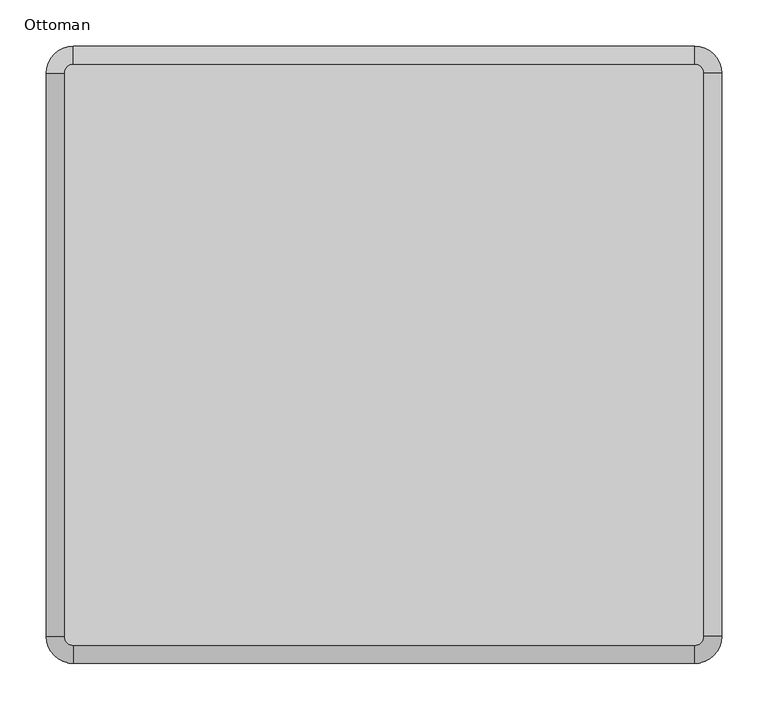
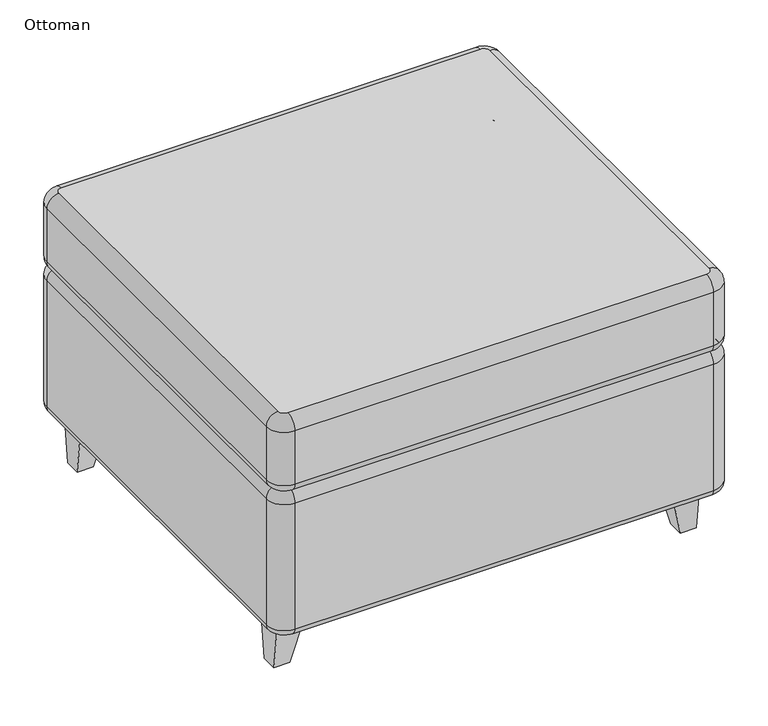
"""IFC4 building model written with IfcOpenShell, lengths in millimetres: furniture geometry, Coalesse_AM_Seating_Ottoman_Thoughtful : Ottoman."""

import ifcopenshell
import ifcopenshell.guid

model = None  # the IFC model being written
_history = None  # IfcOwnerHistory: only IFC2X3 demands one
_inside = {}  # id of a spatial element -> (the spatial element, [elements in it])
_under = {}  # id of a project, library or spatial element -> (it, [spatial elements below it])
_declared = {}  # id of a project -> (the project, [libraries it declares])
_typed = {}  # id of a type object -> (the type object, [elements of that type])
_made_of = {}  # id of a material, layer set ... -> (it, [elements and type objects made of it])


def new_model(schema):
    """Start an empty IFC model of exactly this schema.

    Asked for "IFC4X3", IfcOpenShell would pick the latest addendum, in which some entities
    have other attributes; the version numbers below select the first issue.
    IFC2X3 requires an IfcOwnerHistory on every rooted entity: one is made here for all.
    """
    global model, _history
    if schema == "IFC4X3":
        model = ifcopenshell.file(schema_version=(4, 3, 0, 0))
    else:
        model = ifcopenshell.file(schema=schema)
    _inside.clear()
    _under.clear()
    _declared.clear()
    _typed.clear()
    _made_of.clear()
    _history = None
    if model.schema == "IFC2X3":
        org = make("IfcOrganization", Name="unknown")
        user = make(
            "IfcPersonAndOrganization",
            ThePerson=make("IfcPerson", FamilyName="unknown"),
            TheOrganization=org,
        )
        app = make(
            "IfcApplication",
            ApplicationDeveloper=org,
            Version="unknown",
            ApplicationFullName="unknown",
            ApplicationIdentifier="unknown",
        )
        _history = make(
            "IfcOwnerHistory",
            OwningUser=user,
            OwningApplication=app,
            ChangeAction="ADDED",
            CreationDate=0,
        )
    return model


def make(cls, **values):
    """One entity of the class cls with the attributes given. An attribute that is None is left unset."""
    return model.create_entity(
        cls, **{name: value for name, value in values.items() if value is not None}
    )


def rooted(cls, **values):
    """An entity with a GlobalId (a new one), such as an element, a storey or a relation."""
    return make(cls, GlobalId=ifcopenshell.guid.new(), OwnerHistory=_history, **values)


def si_unit(unit_type, name, prefix=None):
    """IfcSIUnit, for example si_unit("LENGTHUNIT", "METRE", prefix="MILLI")."""
    return make("IfcSIUnit", UnitType=unit_type, Prefix=prefix, Name=name)


def assignment(units):
    """IfcUnitAssignment: the units of a project."""
    return None if units is None else make("IfcUnitAssignment", Units=units)


def point(xyz):
    """IfcCartesianPoint."""
    return None if xyz is None else make("IfcCartesianPoint", Coordinates=xyz)


def direction(xyz):
    """IfcDirection."""
    return None if xyz is None else make("IfcDirection", DirectionRatios=xyz)


def frame(location, z_axis=None, x_axis=None):
    """IfcAxis2Placement3D, a coordinate frame: its origin and axes. An axis left out is left unset."""
    return make(
        "IfcAxis2Placement3D",
        Location=point(location),
        Axis=direction(z_axis),
        RefDirection=direction(x_axis),
    )


def origin():
    """The frame at (0, 0, 0) with its axes left unset."""
    return frame((0.0, 0.0, 0.0))


def place(relative_to, where):
    """IfcLocalPlacement: puts the frame where relative to a parent placement (None: the world)."""
    return make(
        "IfcLocalPlacement", PlacementRelTo=relative_to, RelativePlacement=where
    )


def context(
    kind, dimensions, precision=None, world=None, true_north=None, identifier=None
):
    """IfcGeometricRepresentationContext, for example the 3D "Model" context."""
    return make(
        "IfcGeometricRepresentationContext",
        ContextIdentifier=identifier,
        ContextType=kind,
        CoordinateSpaceDimension=dimensions,
        Precision=precision,
        WorldCoordinateSystem=world,
        TrueNorth=true_north,
    )


def project(units=None, contexts=None):
    """IfcProject with its units and contexts."""
    return rooted(
        "IfcProject",
        Name="project",
        RepresentationContexts=contexts,
        UnitsInContext=assignment(units),
    )


def spatial(cls, under=None, at=None, **own):
    """A site, building, storey or space (cls), placed at a placement, below another one or the project."""
    s = rooted(cls, ObjectPlacement=at, **own)
    if under is not None:
        _under.setdefault(under.id(), (under, []))[1].append(s)
    return s


def circle_curve(where, radius):
    """IfcCircle in the frame where."""
    return make("IfcCircle", Position=where, Radius=radius)


def ellipse_curve(where, semi_axis1, semi_axis2):
    """IfcEllipse in the frame where."""
    return make(
        "IfcEllipse", Position=where, SemiAxis1=semi_axis1, SemiAxis2=semi_axis2
    )


def trimmed(basis, trim1, trim2, sense, master):
    """IfcTrimmedCurve: the piece of a basis curve between two trims."""
    return make(
        "IfcTrimmedCurve",
        BasisCurve=basis,
        Trim1=trim1,
        Trim2=trim2,
        SenseAgreement=sense,
        MasterRepresentation=master,
    )


def faces_of(points, faces, orient=None, outer=None):
    """IfcFace entities. A face is a list of loops; a loop is a list of indices into points, from 0.

    orient and outer hold one flag for each loop. By default every Orientation is true, the
    first loop of a face is its IfcFaceOuterBound and the others are IfcFaceBound.
    """
    made = []
    for i, loops in enumerate(faces):
        bounds = []
        for j, loop in enumerate(loops):
            is_outer = j == 0 if outer is None else outer[i][j]
            bounds.append(
                make(
                    "IfcFaceOuterBound" if is_outer else "IfcFaceBound",
                    Bound=make("IfcPolyLoop", Polygon=[points[k] for k in loop]),
                    Orientation=True if orient is None else orient[i][j],
                )
            )
        made.append(make("IfcFace", Bounds=bounds))
    return made


def faceted_brep(points, faces, orient=None, outer=None, voids=None):
    """IfcFacetedBrep: a solid bounded by flat faces; with voids (closed shells), ...WithVoids."""
    shared = [point(p) for p in points]
    hull = make("IfcClosedShell", CfsFaces=faces_of(shared, faces, orient, outer))
    if voids is None:
        return make("IfcFacetedBrep", Outer=hull)
    return make(
        "IfcFacetedBrepWithVoids",
        Outer=hull,
        Voids=[
            make(cls, CfsFaces=faces_of(shared, fs, o, b)) for cls, fs, o, b in voids
        ],
    )


def shape(context_of_items, identifier, shape_type, items):
    """IfcShapeRepresentation: the items that make up one representation, for example the "Body"."""
    return make(
        "IfcShapeRepresentation",
        ContextOfItems=context_of_items,
        RepresentationIdentifier=identifier,
        RepresentationType=shape_type,
        Items=items,
    )


def source(mapping_origin, context_of_items, identifier, shape_type, items):
    """IfcRepresentationMap: a shape defined once, which mapped items show again and again."""
    return make(
        "IfcRepresentationMap",
        MappingOrigin=mapping_origin,
        MappedRepresentation=shape(context_of_items, identifier, shape_type, items),
    )


def transform(
    local_origin,
    x_axis=None,
    y_axis=None,
    z_axis=None,
    scale=None,
    scale2=None,
    scale3=None,
    uniform=True,
):
    """IfcCartesianTransformationOperator3D, or its non-uniform kind. x_axis, y_axis, z_axis: its Axis1, 2, 3."""
    if uniform:
        return make(
            "IfcCartesianTransformationOperator3D",
            Axis1=direction(x_axis),
            Axis2=direction(y_axis),
            LocalOrigin=point(local_origin),
            Scale=scale,
            Axis3=direction(z_axis),
        )
    return make(
        "IfcCartesianTransformationOperator3DnonUniform",
        Axis1=direction(x_axis),
        Axis2=direction(y_axis),
        LocalOrigin=point(local_origin),
        Scale=scale,
        Axis3=direction(z_axis),
        Scale2=scale2,
        Scale3=scale3,
    )


def mapped(mapping_source, mapping_target):
    """IfcMappedItem: shows the shape of a source again, moved by a transform."""
    return make(
        "IfcMappedItem", MappingSource=mapping_source, MappingTarget=mapping_target
    )


def made_of(thing, what):
    """Note that an element or type object is made of a material, layer set ...; save() writes the relation."""
    if what is not None:
        _made_of.setdefault(what.id(), (what, []))[1].append(thing)
    return thing


def element(
    cls,
    number,
    at=None,
    inside=None,
    cuts=None,
    type_object=None,
    material=None,
    context=None,
    identifier="Body",
    shape_type=None,
    held_by="IfcProductDefinitionShape",
    body=None,
    shapes=None,
    **own,
):
    """One element of the class cls, such as IfcWall. Its Tag is "e" and its number.

    at: its placement. inside: the storey or other place that contains it. cuts: it is an
    opening in that element (IfcRelVoidsElement). A single representation is given by context,
    identifier, shape_type and body (its items); several are given by shapes. held_by: the class
    of the entity that holds the representations. save() writes the other relations.
    """
    e = rooted(cls, Tag="e%d" % number, ObjectPlacement=at, **own)
    if body is not None:
        shapes = [shape(context, identifier, shape_type, body)]
    if shapes is not None:
        e.Representation = make(held_by, Representations=shapes)
    if inside is not None:
        _inside.setdefault(inside.id(), (inside, []))[1].append(e)
    if cuts is not None:
        rooted(
            "IfcRelVoidsElement", RelatingBuildingElement=cuts, RelatedOpeningElement=e
        )
    if type_object is not None:
        _typed.setdefault(type_object.id(), (type_object, []))[1].append(e)
    return made_of(e, material)


def aggregate(whole, parts):
    """IfcRelAggregates: a whole, such as a stair, and the parts it consists of."""
    return rooted("IfcRelAggregates", RelatingObject=whole, RelatedObjects=parts)


def save(model, path):
    """Write the relations noted so far, then the file.

    IfcRelAggregates (storeys below a building ...), IfcRelContainedInSpatialStructure (elements
    in a storey), IfcRelDefinesByType, IfcRelAssociatesMaterial and IfcRelDeclares: one each for
    every whole, place, type object, material and project.
    """
    for whole, parts in _under.values():
        aggregate(whole, parts)
    for where, things in _inside.values():
        rooted(
            "IfcRelContainedInSpatialStructure",
            RelatedElements=things,
            RelatingStructure=where,
        )
    for kind, things in _typed.values():
        rooted("IfcRelDefinesByType", RelatedObjects=things, RelatingType=kind)
    for what, things in _made_of.values():
        rooted("IfcRelAssociatesMaterial", RelatedObjects=things, RelatingMaterial=what)
    for by, libraries in _declared.values():
        rooted("IfcRelDeclares", RelatingContext=by, RelatedDefinitions=libraries)
    model.write(path)


def plane_surface(at):
    """IfcPlane: the flat surface through the origin of the frame at, square to its z axis."""
    return make("IfcPlane", Position=at)


def cylinder_surface(at, radius):
    """IfcCylindricalSurface: all points at the distance radius from the z axis of the frame at."""
    return make("IfcCylindricalSurface", Position=at, Radius=radius)


def revolved_surface(curve, axis_point, axis_direction):
    """IfcSurfaceOfRevolution: the curve turned about the line through axis_point along axis_direction."""
    return make(
        "IfcSurfaceOfRevolution",
        SweptCurve=make("IfcArbitraryOpenProfileDef", ProfileType="CURVE", Curve=curve),
        AxisPosition=make("IfcAxis1Placement", Location=point(axis_point), Axis=direction(axis_direction)),
    )


def advanced_brep(points, edges, surfaces, faces):
    """IfcAdvancedBrep: a solid bounded by faces that lie on surfaces and meet in shared edges.

    An edge is (start, end): straight between two places in points (the first is 0);
    or (start, end, curve); or (start, end, curve, False) where it runs against its curve.
    A face is (place in surfaces, loops), or (place, loops, False) where it looks against
    its surface's normal. A loop lists edges by number (the first is 1), with a minus sign
    where the edge is run from its end to its start. The first loop is the outer one.
    """
    corners = [point(p) for p in points]
    vertices = [make("IfcVertexPoint", VertexGeometry=c) for c in corners]
    made = []
    for start, end, *more in edges:
        made.append(
            make(
                "IfcEdgeCurve",
                EdgeStart=vertices[start],
                EdgeEnd=vertices[end],
                EdgeGeometry=more[0] if more else make("IfcPolyline", Points=[corners[start], corners[end]]),
                SameSense=more[1] if len(more) > 1 else True,
            )
        )
    hull = []
    for where, loops, *sense in faces:
        bounds = []
        for j, loop in enumerate(loops):
            ring = [make("IfcOrientedEdge", EdgeElement=made[abs(k) - 1], Orientation=k > 0) for k in loop]
            bounds.append(
                make(
                    "IfcFaceOuterBound" if j == 0 else "IfcFaceBound",
                    Bound=make("IfcEdgeLoop", EdgeList=ring),
                    Orientation=True,
                )
            )
        hull.append(make("IfcAdvancedFace", Bounds=bounds, FaceSurface=surfaces[where], SameSense=sense[0] if sense else True))
    return make("IfcAdvancedBrep", Outer=make("IfcClosedShell", CfsFaces=hull))


def ottoman_d983d748(model_context):
    return source(origin(), model_context, "Body", "SolidModel", [
        advanced_brep(
        [(366.9965579, 29.1390044, 91.5123133), (337.8575535, 0.0, 91.5123133), (337.8575535, 12.7, 78.8123133), (354.2965579, 29.1390044, 78.8123133), (366.9965579, 29.1390044, 304.6192213), (337.8575535, 0.0, 304.6192213), (356.9291922, 29.1390044, 321.4184707), (337.8575535, 10.0673657, 321.4184707), (366.9965579, 29.1390044, 336.5051923), (337.8575535, 0.0, 336.5051923), (366.9965579, 29.1390044, 426.5688106), (337.8575535, 0.0, 426.5688106), (347.9465579, 29.1390044, 445.6188106), (337.8575535, 19.05, 445.6188106), (354.2965579, 636.2680669, 78.8123133), (366.9965579, 636.2680669, 91.5123133), (366.9965579, 636.2680669, 304.6192213), (356.9291922, 636.2680669, 321.4184707), (366.9965579, 636.2680669, 336.5051923), (366.9965579, 636.2680669, 426.5688106), (347.9465579, 636.2680669, 445.6188106), (337.8575535, 652.7070712, 78.8123133), (337.8575535, 665.4070712, 91.5123133), (337.8575535, 665.4070712, 304.6192213), (337.8575535, 655.3397055, 321.4184707), (337.8575535, 665.4070712, 336.5051923), (337.8575535, 665.4070712, 426.5688106), (337.8575535, 646.3570712, 445.6188106), (-331.5075535, 652.7070712, 78.8123133), (-331.5075535, 665.4070712, 91.5123133), (-331.5075535, 665.4070712, 304.6192213), (-331.5075535, 655.3397055, 321.4184707), (-331.5075535, 665.4070712, 336.5051923), (-331.5075535, 665.4070712, 426.5688106), (-331.5075535, 646.3570712, 445.6188106), (-347.9465579, 636.2680669, 78.8123133), (-360.6465579, 636.2680669, 91.5123133), (-360.6465579, 636.2680669, 304.6192213), (-350.5791922, 636.2680669, 321.4184707), (-360.6465579, 636.2680669, 336.5051923), (-360.6465579, 636.2680669, 426.5688106), (-341.5965579, 636.2680669, 445.6188106), (-347.9465579, 29.1390044, 78.8123133), (-360.6465579, 29.1390044, 91.5123133), (-360.6465579, 29.1390044, 304.6192213), (-350.5791922, 29.1390044, 321.4184707), (-360.6465579, 29.1390044, 336.5051923), (-360.6465579, 29.1390044, 426.5688106), (-341.5965579, 29.1390044, 445.6188106), (-331.5075535, 12.7, 78.8123133), (-331.5075535, 0.0, 91.5123133), (-331.5075535, 0.0, 304.6192213), (-331.5075535, 10.0673657, 321.4184707), (-331.5075535, 0.0, 336.5051923), (-331.5075535, 0.0, 426.5688106), (-331.5075535, 19.05, 445.6188106)],
        [
            (0, 1, circle_curve(frame((337.8575535, 29.1390044, 91.5123133), z_axis=(0.0, 0.0, -1.0), x_axis=(0.0, -1.0, 0.0)), 29.1390044)),
            (1, 2, circle_curve(frame((337.8575535, 12.7, 91.5123133), z_axis=(1.0, 0.0, 0.0), x_axis=(0.0, -1.0, 0.0)), 12.7)),
            (2, 3, circle_curve(frame((337.8575535, 29.1390044, 78.8123133), z_axis=(0.0, 0.0, 1.0), x_axis=(0.0, -1.0, 0.0)), 16.4390044)),
            (3, 0, circle_curve(frame((354.2965579, 29.1390044, 91.5123133), z_axis=(0.0, -1.0, 0.0), x_axis=(1.0, 0.0, 0.0)), 12.7)),
            (0, 4),
            (4, 5, circle_curve(frame((337.8575535, 29.1390044, 304.6192213), z_axis=(0.0, 0.0, -1.0), x_axis=(0.0, -1.0, 0.0)), 29.1390044)),
            (5, 1),
            (4, 6, circle_curve(frame((347.9465579, 29.1390044, 304.6192213), z_axis=(0.0, -1.0, 0.0), x_axis=(1.0, 0.0, 0.0)), 19.05)),
            (6, 7, circle_curve(frame((337.8575535, 29.1390044, 321.4184707), z_axis=(0.0, 0.0, -1.0), x_axis=(0.0, -1.0, 0.0)), 19.0716387)),
            (7, 5, circle_curve(frame((337.8575535, 19.05, 304.6192213), z_axis=(1.0, 0.0, 0.0), x_axis=(0.0, -1.0, 0.0)), 19.05)),
            (6, 8, circle_curve(frame((350.6585689, 29.1390044, 336.5051923), z_axis=(0.0, -1.0, 0.0), x_axis=(1.0, 0.0, 0.0)), 16.337989)),
            (8, 9, circle_curve(frame((337.8575535, 29.1390044, 336.5051923), z_axis=(0.0, 0.0, -1.0), x_axis=(0.0, -1.0, 0.0)), 29.1390044)),
            (9, 7, circle_curve(frame((337.8575535, 16.337989, 336.5051923), z_axis=(1.0, 0.0, 0.0), x_axis=(0.0, -1.0, 0.0)), 16.337989)),
            (8, 10),
            (10, 11, circle_curve(frame((337.8575535, 29.1390044, 426.5688106), z_axis=(0.0, 0.0, -1.0), x_axis=(0.0, -1.0, 0.0)), 29.1390044)),
            (11, 9),
            (10, 12, circle_curve(frame((347.9465579, 29.1390044, 426.5688106), z_axis=(0.0, -1.0, 0.0), x_axis=(1.0, 0.0, 0.0)), 19.05)),
            (12, 13, circle_curve(frame((337.8575535, 29.1390044, 445.6188106), z_axis=(0.0, 0.0, -1.0), x_axis=(0.0, -1.0, 0.0)), 10.0890044)),
            (13, 11, circle_curve(frame((337.8575535, 19.05, 426.5688106), z_axis=(1.0, 0.0, 0.0), x_axis=(0.0, -1.0, 0.0)), 19.05)),
            (3, 14),
            (14, 15, circle_curve(frame((354.2965579, 636.2680669, 91.5123133), z_axis=(0.0, -1.0, 0.0), x_axis=(1.0, 0.0, 0.0)), 12.7)),
            (15, 0),
            (15, 16),
            (16, 4),
            (16, 17, circle_curve(frame((347.9465579, 636.2680669, 304.6192213), z_axis=(0.0, -1.0, 0.0), x_axis=(1.0, 0.0, 0.0)), 19.05)),
            (17, 6),
            (17, 18, circle_curve(frame((350.6585689, 636.2680669, 336.5051923), z_axis=(0.0, -1.0, 0.0), x_axis=(1.0, 0.0, 0.0)), 16.337989)),
            (18, 8),
            (18, 19),
            (19, 10),
            (19, 20, circle_curve(frame((347.9465579, 636.2680669, 426.5688106), z_axis=(0.0, -1.0, 0.0), x_axis=(1.0, 0.0, 0.0)), 19.05)),
            (20, 12),
            (14, 21, circle_curve(frame((337.8575535, 636.2680669, 78.8123133), z_axis=(0.0, 0.0, 1.0), x_axis=(1.0, 0.0, 0.0)), 16.4390044)),
            (21, 22, circle_curve(frame((337.8575535, 652.7070712, 91.5123133), z_axis=(1.0, 0.0, 0.0), x_axis=(0.0, 1.0, 0.0)), 12.7)),
            (22, 15, circle_curve(frame((337.8575535, 636.2680669, 91.5123133), z_axis=(0.0, 0.0, -1.0), x_axis=(1.0, 0.0, 0.0)), 29.1390044)),
            (22, 23),
            (23, 16, circle_curve(frame((337.8575535, 636.2680669, 304.6192213), z_axis=(0.0, 0.0, -1.0), x_axis=(1.0, 0.0, 0.0)), 29.1390044)),
            (23, 24, circle_curve(frame((337.8575535, 646.3570712, 304.6192213), z_axis=(1.0, 0.0, 0.0), x_axis=(0.0, 1.0, 0.0)), 19.05)),
            (24, 17, circle_curve(frame((337.8575535, 636.2680669, 321.4184707), z_axis=(0.0, 0.0, -1.0), x_axis=(1.0, 0.0, 0.0)), 19.0716387)),
            (24, 25, circle_curve(frame((337.8575535, 649.0690822, 336.5051923), z_axis=(1.0, 0.0, 0.0), x_axis=(0.0, 1.0, 0.0)), 16.337989)),
            (25, 18, circle_curve(frame((337.8575535, 636.2680669, 336.5051923), z_axis=(0.0, 0.0, -1.0), x_axis=(1.0, 0.0, 0.0)), 29.1390044)),
            (25, 26),
            (26, 19, circle_curve(frame((337.8575535, 636.2680669, 426.5688106), z_axis=(0.0, 0.0, -1.0), x_axis=(1.0, 0.0, 0.0)), 29.1390044)),
            (26, 27, circle_curve(frame((337.8575535, 646.3570712, 426.5688106), z_axis=(1.0, 0.0, 0.0), x_axis=(0.0, 1.0, 0.0)), 19.05)),
            (27, 20, circle_curve(frame((337.8575535, 636.2680669, 445.6188106), z_axis=(0.0, 0.0, -1.0), x_axis=(1.0, 0.0, 0.0)), 10.0890044)),
            (21, 28),
            (28, 29, circle_curve(frame((-331.5075535, 652.7070712, 91.5123133), z_axis=(1.0, 0.0, 0.0), x_axis=(0.0, 1.0, 0.0)), 12.7)),
            (29, 22),
            (29, 30),
            (30, 23),
            (30, 31, circle_curve(frame((-331.5075535, 646.3570712, 304.6192213), z_axis=(1.0, 0.0, 0.0), x_axis=(0.0, 1.0, 0.0)), 19.05)),
            (31, 24),
            (31, 32, circle_curve(frame((-331.5075535, 649.0690822, 336.5051923), z_axis=(1.0, 0.0, 0.0), x_axis=(0.0, 1.0, 0.0)), 16.337989)),
            (32, 25),
            (32, 33),
            (33, 26),
            (33, 34, circle_curve(frame((-331.5075535, 646.3570712, 426.5688106), z_axis=(1.0, 0.0, 0.0), x_axis=(0.0, 1.0, 0.0)), 19.05)),
            (34, 27),
            (28, 35, circle_curve(frame((-331.5075535, 636.2680669, 78.8123133), z_axis=(0.0, 0.0, 1.0), x_axis=(0.0, 1.0, 0.0)), 16.4390044)),
            (35, 36, circle_curve(frame((-347.9465579, 636.2680669, 91.5123133), z_axis=(0.0, 1.0, 0.0), x_axis=(-1.0, 0.0, 0.0)), 12.7)),
            (36, 29, circle_curve(frame((-331.5075535, 636.2680669, 91.5123133), z_axis=(0.0, 0.0, -1.0), x_axis=(0.0, 1.0, 0.0)), 29.1390044)),
            (36, 37),
            (37, 30, circle_curve(frame((-331.5075535, 636.2680669, 304.6192213), z_axis=(0.0, 0.0, -1.0), x_axis=(0.0, 1.0, 0.0)), 29.1390044)),
            (37, 38, circle_curve(frame((-341.5965579, 636.2680669, 304.6192213), z_axis=(0.0, 1.0, 0.0), x_axis=(-1.0, 0.0, 0.0)), 19.05)),
            (38, 31, circle_curve(frame((-331.5075535, 636.2680669, 321.4184707), z_axis=(0.0, 0.0, -1.0), x_axis=(0.0, 1.0, 0.0)), 19.0716387)),
            (38, 39, circle_curve(frame((-344.3085689, 636.2680669, 336.5051923), z_axis=(0.0, 1.0, 0.0), x_axis=(-1.0, 0.0, 0.0)), 16.337989)),
            (39, 32, circle_curve(frame((-331.5075535, 636.2680669, 336.5051923), z_axis=(0.0, 0.0, -1.0), x_axis=(0.0, 1.0, 0.0)), 29.1390044)),
            (39, 40),
            (40, 33, circle_curve(frame((-331.5075535, 636.2680669, 426.5688106), z_axis=(0.0, 0.0, -1.0), x_axis=(0.0, 1.0, 0.0)), 29.1390044)),
            (40, 41, circle_curve(frame((-341.5965579, 636.2680669, 426.5688106), z_axis=(0.0, 1.0, 0.0), x_axis=(-1.0, 0.0, 0.0)), 19.05)),
            (41, 34, circle_curve(frame((-331.5075535, 636.2680669, 445.6188106), z_axis=(0.0, 0.0, -1.0), x_axis=(0.0, 1.0, 0.0)), 10.0890044)),
            (35, 42),
            (42, 43, circle_curve(frame((-347.9465579, 29.1390044, 91.5123133), z_axis=(0.0, 1.0, 0.0), x_axis=(-1.0, 0.0, 0.0)), 12.7)),
            (43, 36),
            (43, 44),
            (44, 37),
            (44, 45, circle_curve(frame((-341.5965579, 29.1390044, 304.6192213), z_axis=(0.0, 1.0, 0.0), x_axis=(-1.0, 0.0, 0.0)), 19.05)),
            (45, 38),
            (45, 46, circle_curve(frame((-344.3085689, 29.1390044, 336.5051923), z_axis=(0.0, 1.0, 0.0), x_axis=(-1.0, 0.0, 0.0)), 16.337989)),
            (46, 39),
            (46, 47),
            (47, 40),
            (47, 48, circle_curve(frame((-341.5965579, 29.1390044, 426.5688106), z_axis=(0.0, 1.0, 0.0), x_axis=(-1.0, 0.0, 0.0)), 19.05)),
            (48, 41),
            (42, 49, circle_curve(frame((-331.5075535, 29.1390044, 78.8123133), z_axis=(0.0, 0.0, 1.0), x_axis=(-1.0, 0.0, 0.0)), 16.4390044)),
            (49, 50, circle_curve(frame((-331.5075535, 12.7, 91.5123133), z_axis=(-1.0, 0.0, 0.0), x_axis=(0.0, -1.0, 0.0)), 12.7)),
            (50, 43, circle_curve(frame((-331.5075535, 29.1390044, 91.5123133), z_axis=(0.0, 0.0, -1.0), x_axis=(-1.0, 0.0, 0.0)), 29.1390044)),
            (50, 51),
            (51, 44, circle_curve(frame((-331.5075535, 29.1390044, 304.6192213), z_axis=(0.0, 0.0, -1.0), x_axis=(-1.0, 0.0, 0.0)), 29.1390044)),
            (51, 52, circle_curve(frame((-331.5075535, 19.05, 304.6192213), z_axis=(-1.0, 0.0, 0.0), x_axis=(0.0, -1.0, 0.0)), 19.05)),
            (52, 45, circle_curve(frame((-331.5075535, 29.1390044, 321.4184707), z_axis=(0.0, 0.0, -1.0), x_axis=(-1.0, 0.0, 0.0)), 19.0716387)),
            (52, 53, circle_curve(frame((-331.5075535, 16.337989, 336.5051923), z_axis=(-1.0, 0.0, 0.0), x_axis=(0.0, -1.0, 0.0)), 16.337989)),
            (53, 46, circle_curve(frame((-331.5075535, 29.1390044, 336.5051923), z_axis=(0.0, 0.0, -1.0), x_axis=(-1.0, 0.0, 0.0)), 29.1390044)),
            (53, 54),
            (54, 47, circle_curve(frame((-331.5075535, 29.1390044, 426.5688106), z_axis=(0.0, 0.0, -1.0), x_axis=(-1.0, 0.0, 0.0)), 29.1390044)),
            (54, 55, circle_curve(frame((-331.5075535, 19.05, 426.5688106), z_axis=(-1.0, 0.0, 0.0), x_axis=(0.0, -1.0, 0.0)), 19.05)),
            (55, 48, circle_curve(frame((-331.5075535, 29.1390044, 445.6188106), z_axis=(0.0, 0.0, -1.0), x_axis=(-1.0, 0.0, 0.0)), 10.0890044)),
            (2, 49),
            (1, 50),
            (5, 51),
            (7, 52),
            (9, 53),
            (11, 54),
            (13, 55),
        ],
        [
            revolved_surface(trimmed(ellipse_curve(frame((337.8575535, 12.7, 91.5123133), z_axis=(-1.0, 0.0, 0.0), x_axis=(0.0, -1.0, 0.0)), 12.7, 12.7), [point((337.8575535, 12.7, 78.8123133))], [point((337.8575535, 0.0, 91.5123133))], True, "CARTESIAN"), (337.8575535, 29.1390044, 445.6188106), (0.0, 0.0, 1.0)),
            cylinder_surface(frame((337.8575535, 29.1390044, 445.6188106), z_axis=(0.0, 0.0, 1.0), x_axis=(0.0, -1.0, 0.0)), 29.1390044),
            revolved_surface(trimmed(ellipse_curve(frame((337.8575535, 19.05, 304.6192213), z_axis=(-1.0, 0.0, 0.0), x_axis=(0.0, -1.0, 0.0)), 19.05, 19.05), [point((337.8575535, 0.0, 304.6192213))], [point((337.8575535, 10.0673657, 321.4184707))], True, "CARTESIAN"), (337.8575535, 29.1390044, 445.6188106), (0.0, 0.0, 1.0)),
            revolved_surface(trimmed(ellipse_curve(frame((337.8575535, 16.337989, 336.5051923), z_axis=(-1.0, 0.0, 0.0), x_axis=(0.0, -1.0, 0.0)), 16.337989, 16.337989), [point((337.8575535, 10.0673657, 321.4184707))], [point((337.8575535, 0.0, 336.5051923))], True, "CARTESIAN"), (337.8575535, 29.1390044, 445.6188106), (0.0, 0.0, 1.0)),
            revolved_surface(trimmed(ellipse_curve(frame((337.8575535, 19.05, 426.5688106), z_axis=(-1.0, 0.0, 0.0), x_axis=(0.0, -1.0, 0.0)), 19.05, 19.05), [point((337.8575535, 0.0, 426.5688106))], [point((337.8575535, 19.05, 445.6188106))], True, "CARTESIAN"), (337.8575535, 29.1390044, 445.6188106), (0.0, 0.0, 1.0)),
            cylinder_surface(frame((354.2965579, 29.1390044, 91.5123133), z_axis=(0.0, -1.0, 0.0), x_axis=(1.0, 0.0, 0.0)), 12.7),
            plane_surface(frame((366.9965579, 29.1390044, 91.5123133), z_axis=(1.0, 0.0, 0.0), x_axis=(0.0, 1.0, 0.0))),
            cylinder_surface(frame((347.9465579, 29.1390044, 304.6192213), z_axis=(0.0, -1.0, 0.0), x_axis=(1.0, 0.0, 0.0)), 19.05),
            cylinder_surface(frame((350.6585689, 29.1390044, 336.5051923), z_axis=(0.0, -1.0, 0.0), x_axis=(1.0, 0.0, 0.0)), 16.337989),
            plane_surface(frame((366.9965579, 29.1390044, 336.5051923), z_axis=(1.0, 0.0, 0.0), x_axis=(0.0, 1.0, 0.0))),
            cylinder_surface(frame((347.9465579, 29.1390044, 426.5688106), z_axis=(0.0, -1.0, 0.0), x_axis=(1.0, 0.0, 0.0)), 19.05),
            revolved_surface(trimmed(ellipse_curve(frame((354.2965579, 636.2680669, 91.5123133), z_axis=(0.0, -1.0, 0.0), x_axis=(1.0, 0.0, 0.0)), 12.7, 12.7), [point((354.2965579, 636.2680669, 78.8123133))], [point((366.9965579, 636.2680669, 91.5123133))], True, "CARTESIAN"), (337.8575535, 636.2680669, 445.6188106), (0.0, 0.0, 1.0)),
            cylinder_surface(frame((337.8575535, 636.2680669, 445.6188106), z_axis=(0.0, 0.0, 1.0), x_axis=(1.0, 0.0, 0.0)), 29.1390044),
            revolved_surface(trimmed(ellipse_curve(frame((347.9465579, 636.2680669, 304.6192213), z_axis=(0.0, -1.0, 0.0), x_axis=(1.0, 0.0, 0.0)), 19.05, 19.05), [point((366.9965579, 636.2680669, 304.6192213))], [point((356.9291922, 636.2680669, 321.4184707))], True, "CARTESIAN"), (337.8575535, 636.2680669, 445.6188106), (0.0, 0.0, 1.0)),
            revolved_surface(trimmed(ellipse_curve(frame((350.6585689, 636.2680669, 336.5051923), z_axis=(0.0, -1.0, 0.0), x_axis=(1.0, 0.0, 0.0)), 16.337989, 16.337989), [point((356.9291922, 636.2680669, 321.4184707))], [point((366.9965579, 636.2680669, 336.5051923))], True, "CARTESIAN"), (337.8575535, 636.2680669, 445.6188106), (0.0, 0.0, 1.0)),
            revolved_surface(trimmed(ellipse_curve(frame((347.9465579, 636.2680669, 426.5688106), z_axis=(0.0, -1.0, 0.0), x_axis=(1.0, 0.0, 0.0)), 19.05, 19.05), [point((366.9965579, 636.2680669, 426.5688106))], [point((347.9465579, 636.2680669, 445.6188106))], True, "CARTESIAN"), (337.8575535, 636.2680669, 445.6188106), (0.0, 0.0, 1.0)),
            cylinder_surface(frame((337.8575535, 652.7070712, 91.5123133), z_axis=(1.0, 0.0, 0.0), x_axis=(0.0, 1.0, 0.0)), 12.7),
            plane_surface(frame((337.8575535, 665.4070712, 91.5123133), z_axis=(0.0, 1.0, 0.0), x_axis=(-1.0, 0.0, 0.0))),
            cylinder_surface(frame((337.8575535, 646.3570712, 304.6192213), z_axis=(1.0, 0.0, 0.0), x_axis=(0.0, 1.0, 0.0)), 19.05),
            cylinder_surface(frame((337.8575535, 649.0690822, 336.5051923), z_axis=(1.0, 0.0, 0.0), x_axis=(0.0, 1.0, 0.0)), 16.337989),
            plane_surface(frame((337.8575535, 665.4070712, 336.5051923), z_axis=(0.0, 1.0, 0.0), x_axis=(-1.0, 0.0, 0.0))),
            cylinder_surface(frame((337.8575535, 646.3570712, 426.5688106), z_axis=(1.0, 0.0, 0.0), x_axis=(0.0, 1.0, 0.0)), 19.05),
            revolved_surface(trimmed(ellipse_curve(frame((-331.5075535, 652.7070712, 91.5123133), z_axis=(1.0, 0.0, 0.0), x_axis=(0.0, 1.0, 0.0)), 12.7, 12.7), [point((-331.5075535, 652.7070712, 78.8123133))], [point((-331.5075535, 665.4070712, 91.5123133))], True, "CARTESIAN"), (-331.5075535, 636.2680669, 445.6188106), (0.0, 0.0, 1.0)),
            cylinder_surface(frame((-331.5075535, 636.2680669, 445.6188106), z_axis=(0.0, 0.0, 1.0), x_axis=(0.0, 1.0, 0.0)), 29.1390044),
            revolved_surface(trimmed(ellipse_curve(frame((-331.5075535, 646.3570712, 304.6192213), z_axis=(1.0, 0.0, 0.0), x_axis=(0.0, 1.0, 0.0)), 19.05, 19.05), [point((-331.5075535, 665.4070712, 304.6192213))], [point((-331.5075535, 655.3397055, 321.4184707))], True, "CARTESIAN"), (-331.5075535, 636.2680669, 445.6188106), (0.0, 0.0, 1.0)),
            revolved_surface(trimmed(ellipse_curve(frame((-331.5075535, 649.0690822, 336.5051923), z_axis=(1.0, 0.0, 0.0), x_axis=(0.0, 1.0, 0.0)), 16.337989, 16.337989), [point((-331.5075535, 655.3397055, 321.4184707))], [point((-331.5075535, 665.4070712, 336.5051923))], True, "CARTESIAN"), (-331.5075535, 636.2680669, 445.6188106), (0.0, 0.0, 1.0)),
            revolved_surface(trimmed(ellipse_curve(frame((-331.5075535, 646.3570712, 426.5688106), z_axis=(1.0, 0.0, 0.0), x_axis=(0.0, 1.0, 0.0)), 19.05, 19.05), [point((-331.5075535, 665.4070712, 426.5688106))], [point((-331.5075535, 646.3570712, 445.6188106))], True, "CARTESIAN"), (-331.5075535, 636.2680669, 445.6188106), (0.0, 0.0, 1.0)),
            cylinder_surface(frame((-347.9465579, 636.2680669, 91.5123133), z_axis=(0.0, 1.0, 0.0), x_axis=(-1.0, 0.0, 0.0)), 12.7),
            plane_surface(frame((-360.6465579, 636.2680669, 91.5123133), z_axis=(-1.0, 0.0, 0.0), x_axis=(0.0, -1.0, 0.0))),
            cylinder_surface(frame((-341.5965579, 636.2680669, 304.6192213), z_axis=(0.0, 1.0, 0.0), x_axis=(-1.0, 0.0, 0.0)), 19.05),
            cylinder_surface(frame((-344.3085689, 636.2680669, 336.5051923), z_axis=(0.0, 1.0, 0.0), x_axis=(-1.0, 0.0, 0.0)), 16.337989),
            plane_surface(frame((-360.6465579, 636.2680669, 336.5051923), z_axis=(-1.0, 0.0, 0.0), x_axis=(0.0, -1.0, 0.0))),
            cylinder_surface(frame((-341.5965579, 636.2680669, 426.5688106), z_axis=(0.0, 1.0, 0.0), x_axis=(-1.0, 0.0, 0.0)), 19.05),
            revolved_surface(trimmed(ellipse_curve(frame((-347.9465579, 29.1390044, 91.5123133), z_axis=(0.0, 1.0, 0.0), x_axis=(-1.0, 0.0, 0.0)), 12.7, 12.7), [point((-347.9465579, 29.1390044, 78.8123133))], [point((-360.6465579, 29.1390044, 91.5123133))], True, "CARTESIAN"), (-331.5075535, 29.1390044, 445.6188106), (0.0, 0.0, 1.0)),
            cylinder_surface(frame((-331.5075535, 29.1390044, 445.6188106), z_axis=(0.0, 0.0, 1.0), x_axis=(-1.0, 0.0, 0.0)), 29.1390044),
            revolved_surface(trimmed(ellipse_curve(frame((-341.5965579, 29.1390044, 304.6192213), z_axis=(0.0, 1.0, 0.0), x_axis=(-1.0, 0.0, 0.0)), 19.05, 19.05), [point((-360.6465579, 29.1390044, 304.6192213))], [point((-350.5791922, 29.1390044, 321.4184707))], True, "CARTESIAN"), (-331.5075535, 29.1390044, 445.6188106), (0.0, 0.0, 1.0)),
            revolved_surface(trimmed(ellipse_curve(frame((-344.3085689, 29.1390044, 336.5051923), z_axis=(0.0, 1.0, 0.0), x_axis=(-1.0, 0.0, 0.0)), 16.337989, 16.337989), [point((-350.5791922, 29.1390044, 321.4184707))], [point((-360.6465579, 29.1390044, 336.5051923))], True, "CARTESIAN"), (-331.5075535, 29.1390044, 445.6188106), (0.0, 0.0, 1.0)),
            revolved_surface(trimmed(ellipse_curve(frame((-341.5965579, 29.1390044, 426.5688106), z_axis=(0.0, 1.0, 0.0), x_axis=(-1.0, 0.0, 0.0)), 19.05, 19.05), [point((-360.6465579, 29.1390044, 426.5688106))], [point((-341.5965579, 29.1390044, 445.6188106))], True, "CARTESIAN"), (-331.5075535, 29.1390044, 445.6188106), (0.0, 0.0, 1.0)),
            plane_surface(frame((-331.5075535, 26.5990044, 78.8123133), z_axis=(0.0, 0.0, -1.0), x_axis=(1.0, 0.0, 0.0))),
            cylinder_surface(frame((-331.5075535, 12.7, 91.5123133), z_axis=(-1.0, 0.0, 0.0), x_axis=(0.0, -1.0, 0.0)), 12.7),
            plane_surface(frame((-331.5075535, 0.0, 91.5123133), z_axis=(0.0, -1.0, 0.0), x_axis=(1.0, 0.0, 0.0))),
            cylinder_surface(frame((-331.5075535, 19.05, 304.6192213), z_axis=(-1.0, 0.0, 0.0), x_axis=(0.0, -1.0, 0.0)), 19.05),
            cylinder_surface(frame((-331.5075535, 16.337989, 336.5051923), z_axis=(-1.0, 0.0, 0.0), x_axis=(0.0, -1.0, 0.0)), 16.337989),
            plane_surface(frame((-331.5075535, 0.0, 336.5051923), z_axis=(0.0, -1.0, 0.0), x_axis=(1.0, 0.0, 0.0))),
            cylinder_surface(frame((-331.5075535, 19.05, 426.5688106), z_axis=(-1.0, 0.0, 0.0), x_axis=(0.0, -1.0, 0.0)), 19.05),
            plane_surface(frame((-331.5075535, 19.05, 445.6188106), z_axis=(0.0, 0.0, 1.0), x_axis=(1.0, 0.0, 0.0))),
        ],
        [
            (0, [[1, 2, 3, 4]]),
            (1, [[-1, 5, 6, 7]]),
            (2, [[-6, 8, 9, 10]]),
            (3, [[-9, 11, 12, 13]]),
            (1, [[-12, 14, 15, 16]]),
            (4, [[-15, 17, 18, 19]]),
            (5, [[-4, 20, 21, 22]]),
            (6, [[-5, -22, 23, 24]]),
            (7, [[-8, -24, 25, 26]]),
            (8, [[-11, -26, 27, 28]]),
            (9, [[-14, -28, 29, 30]]),
            (10, [[-17, -30, 31, 32]]),
            (11, [[-21, 33, 34, 35]]),
            (12, [[-23, -35, 36, 37]]),
            (13, [[-25, -37, 38, 39]]),
            (14, [[-27, -39, 40, 41]]),
            (12, [[-29, -41, 42, 43]]),
            (15, [[-31, -43, 44, 45]]),
            (16, [[-34, 46, 47, 48]]),
            (17, [[-36, -48, 49, 50]]),
            (18, [[-38, -50, 51, 52]]),
            (19, [[-40, -52, 53, 54]]),
            (20, [[-42, -54, 55, 56]]),
            (21, [[-44, -56, 57, 58]]),
            (22, [[-47, 59, 60, 61]]),
            (23, [[-49, -61, 62, 63]]),
            (24, [[-51, -63, 64, 65]]),
            (25, [[-53, -65, 66, 67]]),
            (23, [[-55, -67, 68, 69]]),
            (26, [[-57, -69, 70, 71]]),
            (27, [[-60, 72, 73, 74]]),
            (28, [[-62, -74, 75, 76]]),
            (29, [[-64, -76, 77, 78]]),
            (30, [[-66, -78, 79, 80]]),
            (31, [[-68, -80, 81, 82]]),
            (32, [[-70, -82, 83, 84]]),
            (33, [[-73, 85, 86, 87]]),
            (34, [[-75, -87, 88, 89]]),
            (35, [[-77, -89, 90, 91]]),
            (36, [[-79, -91, 92, 93]]),
            (34, [[-81, -93, 94, 95]]),
            (37, [[-83, -95, 96, 97]]),
            (38, [[-3, 98, -85, -72, -59, -46, -33, -20]]),
            (39, [[-2, 99, -86, -98]]),
            (40, [[-7, 100, -88, -99]]),
            (41, [[-10, 101, -90, -100]]),
            (42, [[-13, 102, -92, -101]]),
            (43, [[-16, 103, -94, -102]]),
            (44, [[-19, 104, -96, -103]]),
            (45, [[-18, -32, -45, -58, -71, -84, -97, -104]]),
        ],
    ),
        faceted_brep([(337.4840652, 591.8812437, 0.0), (311.9378774, 591.8812437, 0.0), (311.9378774, 617.7726866, 0.0), (337.4840652, 617.7726866, 0.0), (337.4840652, 581.4574614, 78.8147114), (337.4840652, 627.4784895, 78.8147114), (292.8532865, 627.4784895, 78.8147114), (292.8532865, 581.4574614, 78.8147114)], [[[0, 1, 2, 3]], [[4, 5, 6, 7]], [[4, 7, 1, 0]], [[7, 6, 2, 1]], [[6, 5, 3, 2]], [[5, 4, 0, 3]]]),
        faceted_brep([(337.5829085, 73.4087865, 0.0), (337.5829085, 47.5173981, 0.0), (312.0367934, 47.5173981, 0.0), (312.0367934, 73.4087865, 0.0), (337.5829085, 83.8329503, 78.8147114), (292.9519118, 83.8329503, 78.8147114), (292.9519118, 37.811468, 78.8147114), (337.5829085, 37.811468, 78.8147114)], [[[0, 1, 2, 3]], [[4, 5, 6, 7]], [[4, 7, 1, 0]], [[7, 6, 2, 1]], [[6, 5, 3, 2]], [[5, 4, 0, 3]]]),
        faceted_brep([(-337.4840652, 591.8812437, 0.0), (-337.4840652, 617.7726866, 0.0), (-311.9378774, 617.7726866, 0.0), (-311.9378774, 591.8812437, 0.0), (-337.4840652, 581.4574614, 78.8147114), (-292.8532865, 581.4574614, 78.8147114), (-292.8532865, 627.4784895, 78.8147114), (-337.4840652, 627.4784895, 78.8147114)], [[[0, 1, 2, 3]], [[4, 5, 6, 7]], [[4, 7, 1, 0]], [[7, 6, 2, 1]], [[6, 5, 3, 2]], [[5, 4, 0, 3]]]),
        faceted_brep([(-337.5829085, 73.4087865, 0.0), (-312.0367934, 73.4087865, 0.0), (-312.0367934, 47.5173981, 0.0), (-337.5829085, 47.5173981, 0.0), (-337.5829085, 83.8329503, 78.8147114), (-337.5829085, 37.811468, 78.8147114), (-292.9519118, 37.811468, 78.8147114), (-292.9519118, 83.8329503, 78.8147114)], [[[0, 1, 2, 3]], [[4, 5, 6, 7]], [[4, 7, 1, 0]], [[7, 6, 2, 1]], [[6, 5, 3, 2]], [[5, 4, 0, 3]]]),
    ])


if __name__ == "__main__":
    model = new_model("IFC4")
    model_context = context("Model", 3, world=origin())
    ifc_project = project(units=[si_unit("LENGTHUNIT", "METRE", prefix="MILLI")], contexts=[model_context])
    site = spatial("IfcSite", under=ifc_project)
    building = spatial("IfcBuilding", under=site)
    placement = place(None, origin())
    ottoman_shape = ottoman_d983d748(model_context)
    element("IfcFurniture", 1, ObjectType="Coalesse_AM_Seating_Ottoman_Thoughtful : Ottoman", at=placement, inside=building, context=model_context, shape_type="MappedRepresentation", body=[
        mapped(ottoman_shape, transform((0.0, 0.0, 0.0), x_axis=(1.0, 0.0, 0.0), y_axis=(0.0, 1.0, 0.0), z_axis=(0.0, 0.0, 1.0))),
    ])
    save(model, "model.ifc")
